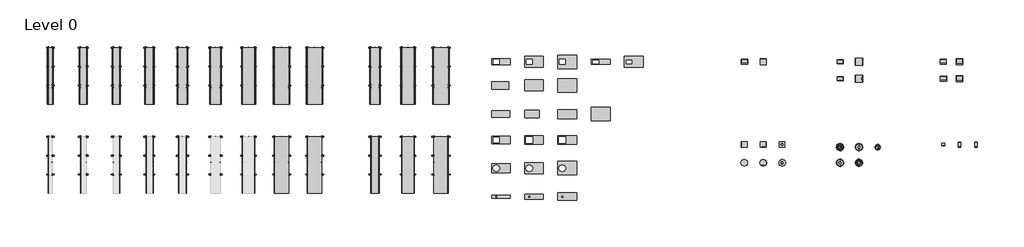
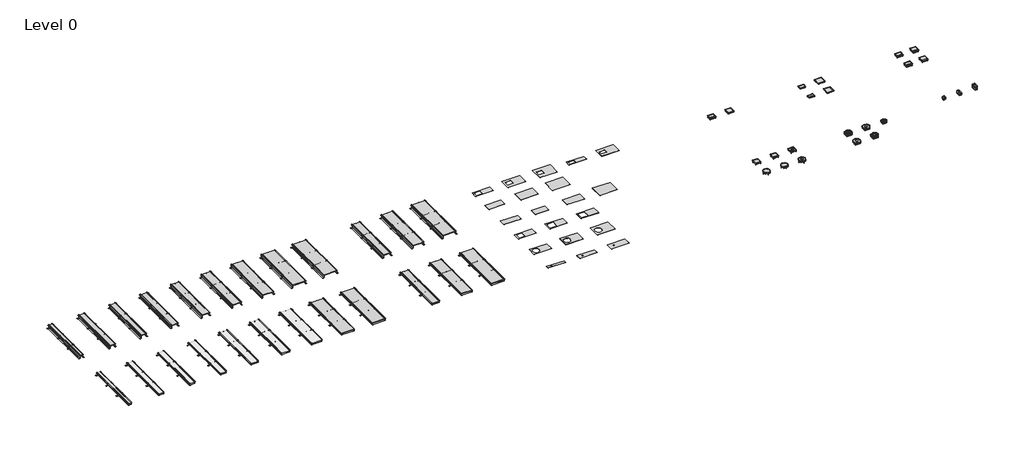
# One storey, part 4 of 4: 69 proxies, 17 cable carrier segments.
"""IFC4 building model written with IfcOpenShell, lengths in millimetres."""

from ifc_helpers import new_model, si_unit, frame, origin, place, context, project, spatial, polyline, outline, extrude, transform, mapped, element, save
from components import electrical_fixtures_b622e032, electrical_fixtures_5628a288, electrical_fixtures_a5200488, electrical_fixtures_af4d04ae, electrical_fixtures_84b00acf, electrical_fixtures_e54105be, electrical_fixtures_3dcf8f7d, electrical_fixtures_91705b88, electrical_fixtures_d483ce37, electrical_fixtures_aef36d11, electrical_fixtures_2640dee4, electrical_fixtures_960f5718, electrical_fixtures_cec88ef4, electrical_fixtures_c34f3bbd, electrical_fixtures_dd089895, electrical_fixtures_6d8ac3d6, electrical_fixtures_47809ec4, electrical_fixtures_4e8a14d8, electrical_fixtures_e7818586, electrical_fixtures_fd652104, electrical_fixtures_dd45cec8, electrical_fixtures_4a2096c9, electrical_fixtures_b3832a11, electrical_fixtures_2455a1ed, electrical_fixtures_ce3c5b8d, electrical_fixtures_6beec135, electrical_fixtures_f82ab545, electrical_fixtures_a64f4c61, electrical_fixtures_7b31ae11, electrical_fixtures_0b4ac500, electrical_fixtures_272c23cf, electrical_fixtures_1b6315bd, electrical_fixtures_594af182, electrical_fixtures_fba496b2, electrical_fixtures_ba507e34, electrical_fixtures_9ab802ce, electrical_fixtures_dc279cdf, electrical_fixtures_df6a39a7, electrical_fixtures_4151214e, electrical_fixtures_acb858e2, electrical_fixtures_989a82f7, electrical_fixtures_b3ad14d0, electrical_fixtures_b430188c, electrical_fixtures_e29cb0aa, electrical_fixtures_c710c140, electrical_fixtures_057aeb0d, electrical_fixtures_bc096a6a, electrical_fixtures_bc675c06, electrical_fixtures_8ed366d0, electrical_fixtures_62458b07, electrical_fixtures_8427cab8, electrical_fixtures_bcf557a4, electrical_fixtures_a8bb30d2, electrical_fixtures_3d1c5f92, electrical_fixtures_84085685, electrical_fixtures_5c7b8e8e, electrical_fixtures_3bb7a620, color_deep_black_c19cb628, color_deep_black_f01a6ed9, color_deep_black_919f03ab, color_deep_black_c4cdae59, color_deep_black_3e0b7094, color_deep_black_fa90bbad, color_iron_grey_09ea9520, stainless_steel_cassette_q12_bl_outer_height_28mm_38aa1d54, stainless_steel_cassette_q12_le_outer_height_28mm_4387def9, stainless_steel_cassette_q12_tm_outer_height_28mm_6e70061e, stainless_steel_cassette_r12_bl_outer_height_28mm_04f2a1df, stainless_steel_cassette_r12_le_outer_height_28mm_2c233eef, stainless_steel_cassette_r12_tm_outer_height_28mm_5556ff63

model = new_model("IFC4")

# Units and contexts
model_context = context("Model", 3, world=origin())
ifc_project = project(units=[si_unit("LENGTHUNIT", "METRE", prefix="MILLI")], contexts=[model_context])

# Site, building, storey
site = spatial("IfcSite", under=ifc_project)
building = spatial("IfcBuilding", under=site)
storey = spatial("IfcBuildingStorey", under=building, Name="Level 0", Elevation=0.0)

# Proxies
placement = place(None, origin())
electrical_fixtures_shape = electrical_fixtures_b622e032(model_context)
element("IfcBuildingElementProxy", 1, Name="Electrical_Installation_Hager_Cover-R12-BKAD : Electrical_Installation_Hager_Cover-R12-BKAD", ObjectType="Electrical_Installation_Hager_Cover-R12-BKAD : Electrical_Installation_Hager_Cover-R12-BKAD", at=placement, inside=storey, context=model_context, shape_type="MappedRepresentation", body=[
    mapped(electrical_fixtures_shape, transform((2595.8008924, 14837.0724961, 0.0), x_axis=(1.0, 0.0, 0.0), y_axis=(0.0, 1.0, 0.0), z_axis=(0.0, 0.0, 1.0))),
])
electrical_fixtures_2_shape = electrical_fixtures_5628a288(model_context)
element("IfcBuildingElementProxy", 2, Name="Electrical_Installation_Hager_Cover-R12-BKAD : Electrical_Installation_Hager_Cover-R12-BKAD", ObjectType="Electrical_Installation_Hager_Cover-R12-BKAD : Electrical_Installation_Hager_Cover-R12-BKAD", at=placement, inside=storey, context=model_context, shape_type="MappedRepresentation", body=[
    mapped(electrical_fixtures_2_shape, transform((1195.8008924, 14837.0724961, 0.0), x_axis=(1.0, 0.0, 0.0), y_axis=(0.0, 1.0, 0.0), z_axis=(0.0, 0.0, 1.0))),
])
electrical_fixtures_3_shape = electrical_fixtures_a5200488(model_context)
electrical_fixtures_4_shape = electrical_fixtures_af4d04ae(model_context)
element("IfcBuildingElementProxy", 3, Name="Electrical_Installation_Hager_BKFD-Trunking-System-With-Flexible-Screed-Casing-And-Sealing-Option : Nominal Size 350  Length 2.4 m", ObjectType="Electrical_Installation_Hager_BKFD-Trunking-System-With-Flexible-Screed-Casing-And-Sealing-Option : Nominal Size 350  Length 2.4 m", at=placement, inside=storey, context=model_context, shape_type="MappedRepresentation", body=[
    mapped(electrical_fixtures_3_shape, transform((-5144.4349543, 19941.7106703, 0.0), x_axis=(0.0, -1.0, 0.0), y_axis=(1.0, 0.0, 0.0), z_axis=(0.0, 0.0, 1.0))),
    mapped(electrical_fixtures_4_shape, transform((-5144.4349543, 19941.7106703, 0.0), x_axis=(0.0, -1.0, 0.0), y_axis=(1.0, 0.0, 0.0), z_axis=(0.0, 0.0, 1.0))),
])
electrical_fixtures_5_shape = electrical_fixtures_84b00acf(model_context)
electrical_fixtures_6_shape = electrical_fixtures_e54105be(model_context)
element("IfcBuildingElementProxy", 4, Name="Electrical_Installation_Hager_BKFD-Trunking-System-With-Flexible-Screed-Casing-And-Sealing-Option : Nominal Size 500  Length 2.4 m", ObjectType="Electrical_Installation_Hager_BKFD-Trunking-System-With-Flexible-Screed-Casing-And-Sealing-Option : Nominal Size 500  Length 2.4 m", at=placement, inside=storey, context=model_context, shape_type="MappedRepresentation", body=[
    mapped(electrical_fixtures_5_shape, transform((-3744.4349543, 19941.7106703, 0.0), x_axis=(0.0, -1.0, 0.0), y_axis=(1.0, 0.0, 0.0), z_axis=(0.0, 0.0, 1.0))),
    mapped(electrical_fixtures_6_shape, transform((-3744.4349543, 19941.7106703, 0.0), x_axis=(0.0, -1.0, 0.0), y_axis=(1.0, 0.0, 0.0), z_axis=(0.0, 0.0, 1.0))),
])
electrical_fixtures_7_shape = electrical_fixtures_3dcf8f7d(model_context)
electrical_fixtures_8_shape = electrical_fixtures_91705b88(model_context)
element("IfcBuildingElementProxy", 5, Name="Electrical_Installation_Hager_BKFD-Trunking-System-With-Flexible-Screed-Casing-And-Sealing-Option : Nominal Size 600  Length 2.4 m", ObjectType="Electrical_Installation_Hager_BKFD-Trunking-System-With-Flexible-Screed-Casing-And-Sealing-Option : Nominal Size 600  Length 2.4 m", at=placement, inside=storey, context=model_context, shape_type="MappedRepresentation", body=[
    mapped(electrical_fixtures_7_shape, transform((-2344.4349543, 19941.7106703, 0.0), x_axis=(0.0, -1.0, 0.0), y_axis=(1.0, 0.0, 0.0), z_axis=(0.0, 0.0, 1.0))),
    mapped(electrical_fixtures_8_shape, transform((-2344.4349543, 19941.7106703, 0.0), x_axis=(0.0, -1.0, 0.0), y_axis=(1.0, 0.0, 0.0), z_axis=(0.0, 0.0, 1.0))),
])
electrical_fixtures_9_shape = electrical_fixtures_d483ce37(model_context)
element("IfcBuildingElementProxy", 6, Name="Electrical_Installation_Hager_Blank-Cover-BKA : Electrical_Installation_Hager_Blank-Cover-BKA", ObjectType="Electrical_Installation_Hager_Blank-Cover-BKA : Electrical_Installation_Hager_Blank-Cover-BKA", at=placement, inside=storey, context=model_context, shape_type="MappedRepresentation", body=[
    mapped(electrical_fixtures_9_shape, transform((4016.298028, 17124.6798726, 0.0), x_axis=(1.0, 0.0, 0.0), y_axis=(0.0, 1.0, 0.0), z_axis=(0.0, 0.0, 1.0))),
])
electrical_fixtures_10_shape = electrical_fixtures_aef36d11(model_context)
element("IfcBuildingElementProxy", 7, Name="Electrical_Installation_Hager_Blank-Cover-BKA : Electrical_Installation_Hager_Blank-Cover-BKA", ObjectType="Electrical_Installation_Hager_Blank-Cover-BKA : Electrical_Installation_Hager_Blank-Cover-BKA", at=placement, inside=storey, context=model_context, shape_type="MappedRepresentation", body=[
    mapped(electrical_fixtures_10_shape, transform((2595.8008924, 17124.6798726, 0.0), x_axis=(1.0, 0.0, 0.0), y_axis=(0.0, 1.0, 0.0), z_axis=(0.0, 0.0, 1.0))),
])
electrical_fixtures_11_shape = electrical_fixtures_2640dee4(model_context)
element("IfcBuildingElementProxy", 8, Name="Electrical_Installation_Hager_Blank-Cover-BKA : Electrical_Installation_Hager_Blank-Cover-BKA", ObjectType="Electrical_Installation_Hager_Blank-Cover-BKA : Electrical_Installation_Hager_Blank-Cover-BKA", at=placement, inside=storey, context=model_context, shape_type="MappedRepresentation", body=[
    mapped(electrical_fixtures_11_shape, transform((1195.8008924, 17124.6798726, 0.0), x_axis=(1.0, 0.0, 0.0), y_axis=(0.0, 1.0, 0.0), z_axis=(0.0, 0.0, 1.0))),
])
electrical_fixtures_12_shape = electrical_fixtures_960f5718(model_context)
element("IfcBuildingElementProxy", 9, Name="Electrical_Installation_Hager_Blank-Cover-BKA : Electrical_Installation_Hager_Blank-Cover-BKA", ObjectType="Electrical_Installation_Hager_Blank-Cover-BKA : Electrical_Installation_Hager_Blank-Cover-BKA", at=placement, inside=storey, context=model_context, shape_type="MappedRepresentation", body=[
    mapped(electrical_fixtures_12_shape, transform((-204.1991076, 17124.6798726, 0.0), x_axis=(1.0, 0.0, 0.0), y_axis=(0.0, 1.0, 0.0), z_axis=(0.0, 0.0, 1.0))),
])
electrical_fixtures_13_shape = electrical_fixtures_cec88ef4(model_context)
element("IfcBuildingElementProxy", 10, Name="Electrical_Installation_Hager_Blank-Cover-BKAD : Electrical_Installation_Hager_Blank-Cover-BKAD", ObjectType="Electrical_Installation_Hager_Blank-Cover-BKAD : Electrical_Installation_Hager_Blank-Cover-BKAD", at=placement, inside=storey, context=model_context, shape_type="MappedRepresentation", body=[
    mapped(electrical_fixtures_13_shape, transform((2595.8008924, 18343.7757742, 0.0), x_axis=(1.0, 0.0, 0.0), y_axis=(0.0, 1.0, 0.0), z_axis=(0.0, 0.0, 1.0))),
])
electrical_fixtures_14_shape = electrical_fixtures_c34f3bbd(model_context)
element("IfcBuildingElementProxy", 11, Name="Electrical_Installation_Hager_Blank-Cover-BKAD : Electrical_Installation_Hager_Blank-Cover-BKAD", ObjectType="Electrical_Installation_Hager_Blank-Cover-BKAD : Electrical_Installation_Hager_Blank-Cover-BKAD", at=placement, inside=storey, context=model_context, shape_type="MappedRepresentation", body=[
    mapped(electrical_fixtures_14_shape, transform((1195.8008924, 18343.7757742, 0.0), x_axis=(1.0, 0.0, 0.0), y_axis=(0.0, 1.0, 0.0), z_axis=(0.0, 0.0, 1.0))),
])
electrical_fixtures_15_shape = electrical_fixtures_dd089895(model_context)
element("IfcBuildingElementProxy", 12, Name="Electrical_Installation_Hager_Blank-Cover-BKAD : Electrical_Installation_Hager_Blank-Cover-BKAD", ObjectType="Electrical_Installation_Hager_Blank-Cover-BKAD : Electrical_Installation_Hager_Blank-Cover-BKAD", at=placement, inside=storey, context=model_context, shape_type="MappedRepresentation", body=[
    mapped(electrical_fixtures_15_shape, transform((-204.1991076, 18343.7757742, 0.0), x_axis=(1.0, 0.0, 0.0), y_axis=(0.0, 1.0, 0.0), z_axis=(0.0, 0.0, 1.0))),
])
electrical_fixtures_16_shape = electrical_fixtures_6d8ac3d6(model_context)
element("IfcBuildingElementProxy", 13, Name="Electrical_Installation_Hager_Cover-E04-BKA : Electrical_Installation_Hager_Cover-E04-BKA", ObjectType="Electrical_Installation_Hager_Cover-E04-BKA : Electrical_Installation_Hager_Cover-E04-BKA", at=placement, inside=storey, context=model_context, shape_type="MappedRepresentation", body=[
    mapped(electrical_fixtures_16_shape, transform((5416.298028, 19343.9175211, 0.0), x_axis=(1.0, 0.0, 0.0), y_axis=(0.0, 1.0, 0.0), z_axis=(0.0, 0.0, 1.0))),
])
electrical_fixtures_17_shape = electrical_fixtures_47809ec4(model_context)
element("IfcBuildingElementProxy", 14, Name="Electrical_Installation_Hager_Cover-E09-BKA : Electrical_Installation_Hager_Cover-E09-BKA", ObjectType="Electrical_Installation_Hager_Cover-E09-BKA : Electrical_Installation_Hager_Cover-E09-BKA", at=placement, inside=storey, context=model_context, shape_type="MappedRepresentation", body=[
    mapped(electrical_fixtures_17_shape, transform((2595.8008924, 19343.9175211, 0.0), x_axis=(1.0, 0.0, 0.0), y_axis=(0.0, 1.0, 0.0), z_axis=(0.0, 0.0, 1.0))),
])
electrical_fixtures_18_shape = electrical_fixtures_4e8a14d8(model_context)
element("IfcBuildingElementProxy", 15, Name="Electrical_Installation_Hager_Cover-E09-BKA : Electrical_Installation_Hager_Cover-E09-BKA", ObjectType="Electrical_Installation_Hager_Cover-E09-BKA : Electrical_Installation_Hager_Cover-E09-BKA", at=placement, inside=storey, context=model_context, shape_type="MappedRepresentation", body=[
    mapped(electrical_fixtures_18_shape, transform((1195.8008924, 19343.9175211, 0.0), x_axis=(1.0, 0.0, 0.0), y_axis=(0.0, 1.0, 0.0), z_axis=(0.0, 0.0, 1.0))),
])
electrical_fixtures_19_shape = electrical_fixtures_e7818586(model_context)
element("IfcBuildingElementProxy", 16, Name="Electrical_Installation_Hager_Cover-GBZ-BKA : Electrical_Installation_Hager_Cover-GBZ-BKA", ObjectType="Electrical_Installation_Hager_Cover-GBZ-BKA : Electrical_Installation_Hager_Cover-GBZ-BKA", at=placement, inside=storey, context=model_context, shape_type="MappedRepresentation", body=[
    mapped(electrical_fixtures_19_shape, transform((1195.8008924, 13630.2917578, 0.0), x_axis=(1.0, 0.0, 0.0), y_axis=(0.0, 1.0, 0.0), z_axis=(0.0, 0.0, 1.0))),
])
electrical_fixtures_20_shape = electrical_fixtures_fd652104(model_context)
element("IfcBuildingElementProxy", 17, Name="Electrical_Installation_Hager_Cover-GBZ-BKA : Electrical_Installation_Hager_Cover-GBZ-BKA", ObjectType="Electrical_Installation_Hager_Cover-GBZ-BKA : Electrical_Installation_Hager_Cover-GBZ-BKA", at=placement, inside=storey, context=model_context, shape_type="MappedRepresentation", body=[
    mapped(electrical_fixtures_20_shape, transform((2595.8008924, 13630.2917578, 0.0), x_axis=(1.0, 0.0, 0.0), y_axis=(0.0, 1.0, 0.0), z_axis=(0.0, 0.0, 1.0))),
])
electrical_fixtures_21_shape = electrical_fixtures_dd45cec8(model_context)
element("IfcBuildingElementProxy", 18, Name="Electrical_Installation_Hager_VE-EE_Pedestal-box-8 : GB pedestal box 8 inst. fields iron gray", ObjectType="Electrical_Installation_Hager_VE-EE_Pedestal-box-8 : GB pedestal box 8 inst. fields iron gray", at=placement, inside=storey, context=model_context, shape_type="MappedRepresentation", body=[
    mapped(electrical_fixtures_21_shape, transform((20328.4884448, 15838.1021439, 0.0), x_axis=(1.0, 0.0, 0.0), y_axis=(0.0, 1.0, 0.0), z_axis=(0.0, 0.0, 1.0))),
])
electrical_fixtures_22_shape = electrical_fixtures_4a2096c9(model_context)
electrical_fixtures_23_shape = electrical_fixtures_b3832a11(model_context)
element("IfcBuildingElementProxy", 19, Name="Electrical_Installation_Hager_BKWD-Trunking-System-With-Trunking-Bottom-And-Sealing-Option : Nominal Size 600  Length 2.4 m", ObjectType="Electrical_Installation_Hager_BKWD-Trunking-System-With-Trunking-Bottom-And-Sealing-Option : Nominal Size 600  Length 2.4 m", at=placement, inside=storey, context=model_context, shape_type="MappedRepresentation", body=[
    mapped(electrical_fixtures_22_shape, transform((-2344.4349543, 16166.2543514, 0.0), x_axis=(0.0, -1.0, 0.0), y_axis=(1.0, 0.0, 0.0), z_axis=(0.0, 0.0, 1.0))),
    mapped(electrical_fixtures_23_shape, transform((-2344.4349543, 16166.2543514, 0.0), x_axis=(0.0, -1.0, 0.0), y_axis=(1.0, 0.0, 0.0), z_axis=(0.0, 0.0, 1.0))),
])
electrical_fixtures_24_shape = electrical_fixtures_2455a1ed(model_context)
electrical_fixtures_25_shape = electrical_fixtures_ce3c5b8d(model_context)
element("IfcBuildingElementProxy", 20, Name="Electrical_Installation_Hager_BKWD-Trunking-System-With-Trunking-Bottom-And-Sealing-Option : Nominal Size 500  Length 2.4 m", ObjectType="Electrical_Installation_Hager_BKWD-Trunking-System-With-Trunking-Bottom-And-Sealing-Option : Nominal Size 500  Length 2.4 m", at=placement, inside=storey, context=model_context, shape_type="MappedRepresentation", body=[
    mapped(electrical_fixtures_24_shape, transform((-3744.4349543, 16166.2543514, 0.0), x_axis=(0.0, -1.0, 0.0), y_axis=(1.0, 0.0, 0.0), z_axis=(0.0, 0.0, 1.0))),
    mapped(electrical_fixtures_25_shape, transform((-3744.4349543, 16166.2543514, 0.0), x_axis=(0.0, -1.0, 0.0), y_axis=(1.0, 0.0, 0.0), z_axis=(0.0, 0.0, 1.0))),
])
electrical_fixtures_26_shape = electrical_fixtures_6beec135(model_context)
electrical_fixtures_27_shape = electrical_fixtures_f82ab545(model_context)
element("IfcBuildingElementProxy", 21, Name="Electrical_Installation_Hager_BKWD-Trunking-System-With-Trunking-Bottom-And-Sealing-Option : Nominal Size 350  Length 2.4 m", ObjectType="Electrical_Installation_Hager_BKWD-Trunking-System-With-Trunking-Bottom-And-Sealing-Option : Nominal Size 350  Length 2.4 m", at=placement, inside=storey, context=model_context, shape_type="MappedRepresentation", body=[
    mapped(electrical_fixtures_26_shape, transform((-5144.4349543, 16166.2543514, 0.0), x_axis=(0.0, -1.0, 0.0), y_axis=(1.0, 0.0, 0.0), z_axis=(0.0, 0.0, 1.0))),
    mapped(electrical_fixtures_27_shape, transform((-5144.4349543, 16166.2543514, 0.0), x_axis=(0.0, -1.0, 0.0), y_axis=(1.0, 0.0, 0.0), z_axis=(0.0, 0.0, 1.0))),
])
element("IfcBuildingElementProxy", 22, Name="Electrical_Installation_Hager_BKW-Trunking-System-With-Trunking-Bottom-For-Dry-Cleaned-Floors : Nominal Size 350  Length 2.4 m", ObjectType="Electrical_Installation_Hager_BKW-Trunking-System-With-Trunking-Bottom-For-Dry-Cleaned-Floors : Nominal Size 350  Length 2.4 m", at=placement, inside=storey, context=model_context, shape_type="MappedRepresentation", body=[
    mapped(electrical_fixtures_26_shape, transform((-13300.1355574, 16166.2543514, 0.0), x_axis=(0.0, -1.0, 0.0), y_axis=(1.0, 0.0, 0.0), z_axis=(0.0, 0.0, 1.0))),
    mapped(electrical_fixtures_27_shape, transform((-13300.1355574, 16166.2543514, 0.0), x_axis=(0.0, -1.0, 0.0), y_axis=(1.0, 0.0, 0.0), z_axis=(0.0, 0.0, 1.0))),
])
electrical_fixtures_28_shape = electrical_fixtures_a64f4c61(model_context)
electrical_fixtures_29_shape = electrical_fixtures_7b31ae11(model_context)
element("IfcBuildingElementProxy", 23, Name="Electrical_Installation_Hager_BKW-Trunking-System-With-Trunking-Bottom-For-Dry-Cleaned-Floors : Nominal Size 400  Length 2.4 m", ObjectType="Electrical_Installation_Hager_BKW-Trunking-System-With-Trunking-Bottom-For-Dry-Cleaned-Floors : Nominal Size 400  Length 2.4 m", at=placement, inside=storey, context=model_context, shape_type="MappedRepresentation", body=[
    mapped(electrical_fixtures_28_shape, transform((-11900.1355574, 16166.2543514, 0.0), x_axis=(0.0, -1.0, 0.0), y_axis=(1.0, 0.0, 0.0), z_axis=(0.0, 0.0, 1.0))),
    mapped(electrical_fixtures_29_shape, transform((-11900.1355574, 16166.2543514, 0.0), x_axis=(0.0, -1.0, 0.0), y_axis=(1.0, 0.0, 0.0), z_axis=(0.0, 0.0, 1.0))),
])
element("IfcBuildingElementProxy", 24, Name="Electrical_Installation_Hager_BKW-Trunking-System-With-Trunking-Bottom-For-Dry-Cleaned-Floors : Nominal Size 500  Length 2.4 m", ObjectType="Electrical_Installation_Hager_BKW-Trunking-System-With-Trunking-Bottom-For-Dry-Cleaned-Floors : Nominal Size 500  Length 2.4 m", at=placement, inside=storey, context=model_context, shape_type="MappedRepresentation", body=[
    mapped(electrical_fixtures_24_shape, transform((-10500.1355574, 16166.2543514, 0.0), x_axis=(0.0, -1.0, 0.0), y_axis=(1.0, 0.0, 0.0), z_axis=(0.0, 0.0, 1.0))),
    mapped(electrical_fixtures_25_shape, transform((-10500.1355574, 16166.2543514, 0.0), x_axis=(0.0, -1.0, 0.0), y_axis=(1.0, 0.0, 0.0), z_axis=(0.0, 0.0, 1.0))),
])
element("IfcBuildingElementProxy", 25, Name="Electrical_Installation_Hager_BKW-Trunking-System-With-Trunking-Bottom-For-Dry-Cleaned-Floors : Nominal Size 600  Length 2.4 m", ObjectType="Electrical_Installation_Hager_BKW-Trunking-System-With-Trunking-Bottom-For-Dry-Cleaned-Floors : Nominal Size 600  Length 2.4 m", at=placement, inside=storey, context=model_context, shape_type="MappedRepresentation", body=[
    mapped(electrical_fixtures_22_shape, transform((-9100.1355574, 16166.2543514, 0.0), x_axis=(0.0, -1.0, 0.0), y_axis=(1.0, 0.0, 0.0), z_axis=(0.0, 0.0, 1.0))),
    mapped(electrical_fixtures_23_shape, transform((-9100.1355574, 16166.2543514, 0.0), x_axis=(0.0, -1.0, 0.0), y_axis=(1.0, 0.0, 0.0), z_axis=(0.0, 0.0, 1.0))),
])
element("IfcBuildingElementProxy", 26, Name="Electrical_Installation_Hager_BKW-Trunking-System-With-Trunking-Bottom-For-Dry-Cleaned-Floors : Nominal Size 600  Length 2.4 m", ObjectType="Electrical_Installation_Hager_BKW-Trunking-System-With-Trunking-Bottom-For-Dry-Cleaned-Floors : Nominal Size 600  Length 2.4 m", at=placement, inside=storey, context=model_context, shape_type="MappedRepresentation", body=[
    mapped(electrical_fixtures_22_shape, transform((-7700.1355574, 16166.2543514, 0.0), x_axis=(0.0, -1.0, 0.0), y_axis=(1.0, 0.0, 0.0), z_axis=(0.0, 0.0, 1.0))),
    mapped(electrical_fixtures_23_shape, transform((-7700.1355574, 16166.2543514, 0.0), x_axis=(0.0, -1.0, 0.0), y_axis=(1.0, 0.0, 0.0), z_axis=(0.0, 0.0, 1.0))),
])
electrical_fixtures_30_shape = electrical_fixtures_0b4ac500(model_context)
electrical_fixtures_31_shape = electrical_fixtures_272c23cf(model_context)
element("IfcBuildingElementProxy", 27, Name="Electrical_Installation_Hager_BKW-Trunking-System-With-Trunking-Bottom-For-Dry-Cleaned-Floors : Nominal Size 300  Length 2.4 m", ObjectType="Electrical_Installation_Hager_BKW-Trunking-System-With-Trunking-Bottom-For-Dry-Cleaned-Floors : Nominal Size 300  Length 2.4 m", at=placement, inside=storey, context=model_context, shape_type="MappedRepresentation", body=[
    mapped(electrical_fixtures_30_shape, transform((-14700.1355574, 16166.2543514, 0.0), x_axis=(0.0, -1.0, 0.0), y_axis=(1.0, 0.0, 0.0), z_axis=(0.0, 0.0, 1.0))),
    mapped(electrical_fixtures_31_shape, transform((-14700.1355574, 16166.2543514, 0.0), x_axis=(0.0, -1.0, 0.0), y_axis=(1.0, 0.0, 0.0), z_axis=(0.0, 0.0, 1.0))),
])
electrical_fixtures_32_shape = electrical_fixtures_1b6315bd(model_context)
electrical_fixtures_33_shape = electrical_fixtures_594af182(model_context)
element("IfcBuildingElementProxy", 28, Name="Electrical_Installation_Hager_BKW-Trunking-System-With-Trunking-Bottom-For-Dry-Cleaned-Floors : Nominal Size 150  Length 2.4 m", ObjectType="Electrical_Installation_Hager_BKW-Trunking-System-With-Trunking-Bottom-For-Dry-Cleaned-Floors : Nominal Size 150  Length 2.4 m", at=placement, inside=storey, context=model_context, shape_type="MappedRepresentation", body=[
    mapped(electrical_fixtures_32_shape, transform((-18900.1355574, 16166.2543514, 0.0), x_axis=(0.0, -1.0, 0.0), y_axis=(1.0, 0.0, 0.0), z_axis=(0.0, 0.0, 1.0))),
    mapped(electrical_fixtures_33_shape, transform((-18900.1355574, 16166.2543514, 0.0), x_axis=(0.0, -1.0, 0.0), y_axis=(1.0, 0.0, 0.0), z_axis=(0.0, 0.0, 1.0))),
])
electrical_fixtures_34_shape = electrical_fixtures_fba496b2(model_context)
electrical_fixtures_35_shape = electrical_fixtures_ba507e34(model_context)
element("IfcBuildingElementProxy", 29, Name="Electrical_Installation_Hager_BKW-Trunking-System-With-Trunking-Bottom-For-Dry-Cleaned-Floors : Nominal Size 250  Length 2.4 m", ObjectType="Electrical_Installation_Hager_BKW-Trunking-System-With-Trunking-Bottom-For-Dry-Cleaned-Floors : Nominal Size 250  Length 2.4 m", at=placement, inside=storey, context=model_context, shape_type="MappedRepresentation", body=[
    mapped(electrical_fixtures_34_shape, transform((-17500.1355574, 16166.2543514, 0.0), x_axis=(0.0, -1.0, 0.0), y_axis=(1.0, 0.0, 0.0), z_axis=(0.0, 0.0, 1.0))),
    mapped(electrical_fixtures_35_shape, transform((-17500.1355574, 16166.2543514, 0.0), x_axis=(0.0, -1.0, 0.0), y_axis=(1.0, 0.0, 0.0), z_axis=(0.0, 0.0, 1.0))),
])
element("IfcBuildingElementProxy", 30, Name="Electrical_Installation_Hager_BKW-Trunking-System-With-Trunking-Bottom-For-Dry-Cleaned-Floors : Nominal Size 250  Length 2.4 m", ObjectType="Electrical_Installation_Hager_BKW-Trunking-System-With-Trunking-Bottom-For-Dry-Cleaned-Floors : Nominal Size 250  Length 2.4 m", at=placement, inside=storey, context=model_context, shape_type="MappedRepresentation", body=[
    mapped(electrical_fixtures_34_shape, transform((-16100.1355574, 16166.2543514, 0.0), x_axis=(0.0, -1.0, 0.0), y_axis=(1.0, 0.0, 0.0), z_axis=(0.0, 0.0, 1.0))),
    mapped(electrical_fixtures_35_shape, transform((-16100.1355574, 16166.2543514, 0.0), x_axis=(0.0, -1.0, 0.0), y_axis=(1.0, 0.0, 0.0), z_axis=(0.0, 0.0, 1.0))),
])
electrical_fixtures_36_shape = electrical_fixtures_9ab802ce(model_context)
electrical_fixtures_37_shape = electrical_fixtures_dc279cdf(model_context)
element("IfcBuildingElementProxy", 31, Name="Electrical_Installation_Hager_BKF-Trunking-System-With-Flexible-Screed-Casing-For-Dry-Cleaned-Floors : Nominal Size 150  Length 2.4 m", ObjectType="Electrical_Installation_Hager_BKF-Trunking-System-With-Flexible-Screed-Casing-For-Dry-Cleaned-Floors : Nominal Size 150  Length 2.4 m", at=placement, inside=storey, context=model_context, shape_type="MappedRepresentation", body=[
    mapped(electrical_fixtures_36_shape, transform((-18900.1355574, 19941.7106703, 0.0), x_axis=(0.0, -1.0, 0.0), y_axis=(1.0, 0.0, 0.0), z_axis=(0.0, 0.0, 1.0))),
    mapped(electrical_fixtures_37_shape, transform((-18900.1355574, 19941.7106703, 0.0), x_axis=(0.0, -1.0, 0.0), y_axis=(1.0, 0.0, 0.0), z_axis=(0.0, 0.0, 1.0))),
])
electrical_fixtures_38_shape = electrical_fixtures_df6a39a7(model_context)
electrical_fixtures_39_shape = electrical_fixtures_4151214e(model_context)
element("IfcBuildingElementProxy", 32, Name="Electrical_Installation_Hager_BKF-Trunking-System-With-Flexible-Screed-Casing-For-Dry-Cleaned-Floors : Nominal Size 250  Length 2.4 m", ObjectType="Electrical_Installation_Hager_BKF-Trunking-System-With-Flexible-Screed-Casing-For-Dry-Cleaned-Floors : Nominal Size 250  Length 2.4 m", at=placement, inside=storey, context=model_context, shape_type="MappedRepresentation", body=[
    mapped(electrical_fixtures_38_shape, transform((-17500.1355574, 19941.7106703, 0.0), x_axis=(0.0, -1.0, 0.0), y_axis=(1.0, 0.0, 0.0), z_axis=(0.0, 0.0, 1.0))),
    mapped(electrical_fixtures_39_shape, transform((-17500.1355574, 19941.7106703, 0.0), x_axis=(0.0, -1.0, 0.0), y_axis=(1.0, 0.0, 0.0), z_axis=(0.0, 0.0, 1.0))),
])
element("IfcBuildingElementProxy", 33, Name="Electrical_Installation_Hager_BKF-Trunking-System-With-Flexible-Screed-Casing-For-Dry-Cleaned-Floors : Nominal Size 250  Length 2.4 m", ObjectType="Electrical_Installation_Hager_BKF-Trunking-System-With-Flexible-Screed-Casing-For-Dry-Cleaned-Floors : Nominal Size 250  Length 2.4 m", at=placement, inside=storey, context=model_context, shape_type="MappedRepresentation", body=[
    mapped(electrical_fixtures_38_shape, transform((-16100.1355574, 19941.7106703, 0.0), x_axis=(0.0, -1.0, 0.0), y_axis=(1.0, 0.0, 0.0), z_axis=(0.0, 0.0, 1.0))),
    mapped(electrical_fixtures_39_shape, transform((-16100.1355574, 19941.7106703, 0.0), x_axis=(0.0, -1.0, 0.0), y_axis=(1.0, 0.0, 0.0), z_axis=(0.0, 0.0, 1.0))),
])
electrical_fixtures_40_shape = electrical_fixtures_acb858e2(model_context)
electrical_fixtures_41_shape = electrical_fixtures_989a82f7(model_context)
element("IfcBuildingElementProxy", 34, Name="Electrical_Installation_Hager_BKF-Trunking-System-With-Flexible-Screed-Casing-For-Dry-Cleaned-Floors : Nominal Size 300  Length 2.4 m", ObjectType="Electrical_Installation_Hager_BKF-Trunking-System-With-Flexible-Screed-Casing-For-Dry-Cleaned-Floors : Nominal Size 300  Length 2.4 m", at=placement, inside=storey, context=model_context, shape_type="MappedRepresentation", body=[
    mapped(electrical_fixtures_40_shape, transform((-14700.1355574, 19941.7106703, 0.0), x_axis=(0.0, -1.0, 0.0), y_axis=(1.0, 0.0, 0.0), z_axis=(0.0, 0.0, 1.0))),
    mapped(electrical_fixtures_41_shape, transform((-14700.1355574, 19941.7106703, 0.0), x_axis=(0.0, -1.0, 0.0), y_axis=(1.0, 0.0, 0.0), z_axis=(0.0, 0.0, 1.0))),
])
element("IfcBuildingElementProxy", 35, Name="Electrical_Installation_Hager_BKF-Trunking-System-With-Flexible-Screed-Casing-For-Dry-Cleaned-Floors : Nominal Size 350  Length 2.4 m", ObjectType="Electrical_Installation_Hager_BKF-Trunking-System-With-Flexible-Screed-Casing-For-Dry-Cleaned-Floors : Nominal Size 350  Length 2.4 m", at=placement, inside=storey, context=model_context, shape_type="MappedRepresentation", body=[
    mapped(electrical_fixtures_3_shape, transform((-13300.1355574, 19941.7106703, 0.0), x_axis=(0.0, -1.0, 0.0), y_axis=(1.0, 0.0, 0.0), z_axis=(0.0, 0.0, 1.0))),
    mapped(electrical_fixtures_4_shape, transform((-13300.1355574, 19941.7106703, 0.0), x_axis=(0.0, -1.0, 0.0), y_axis=(1.0, 0.0, 0.0), z_axis=(0.0, 0.0, 1.0))),
])
electrical_fixtures_42_shape = electrical_fixtures_b3ad14d0(model_context)
electrical_fixtures_43_shape = electrical_fixtures_b430188c(model_context)
element("IfcBuildingElementProxy", 36, Name="Electrical_Installation_Hager_BKF-Trunking-System-With-Flexible-Screed-Casing-For-Dry-Cleaned-Floors : Nominal Size 400  Length 2.4 m", ObjectType="Electrical_Installation_Hager_BKF-Trunking-System-With-Flexible-Screed-Casing-For-Dry-Cleaned-Floors : Nominal Size 400  Length 2.4 m", at=placement, inside=storey, context=model_context, shape_type="MappedRepresentation", body=[
    mapped(electrical_fixtures_42_shape, transform((-11900.1355574, 19941.7106703, 0.0), x_axis=(0.0, -1.0, 0.0), y_axis=(1.0, 0.0, 0.0), z_axis=(0.0, 0.0, 1.0))),
    mapped(electrical_fixtures_43_shape, transform((-11900.1355574, 19941.7106703, 0.0), x_axis=(0.0, -1.0, 0.0), y_axis=(1.0, 0.0, 0.0), z_axis=(0.0, 0.0, 1.0))),
])
element("IfcBuildingElementProxy", 37, Name="Electrical_Installation_Hager_BKF-Trunking-System-With-Flexible-Screed-Casing-For-Dry-Cleaned-Floors : Nominal Size 500  Length 2.4 m", ObjectType="Electrical_Installation_Hager_BKF-Trunking-System-With-Flexible-Screed-Casing-For-Dry-Cleaned-Floors : Nominal Size 500  Length 2.4 m", at=placement, inside=storey, context=model_context, shape_type="MappedRepresentation", body=[
    mapped(electrical_fixtures_5_shape, transform((-10500.1355574, 19941.7106703, 0.0), x_axis=(0.0, -1.0, 0.0), y_axis=(1.0, 0.0, 0.0), z_axis=(0.0, 0.0, 1.0))),
    mapped(electrical_fixtures_6_shape, transform((-10500.1355574, 19941.7106703, 0.0), x_axis=(0.0, -1.0, 0.0), y_axis=(1.0, 0.0, 0.0), z_axis=(0.0, 0.0, 1.0))),
])
element("IfcBuildingElementProxy", 38, Name="Electrical_Installation_Hager_BKF-Trunking-System-With-Flexible-Screed-Casing-For-Dry-Cleaned-Floors : Nominal Size 600  Length 2.4 m", ObjectType="Electrical_Installation_Hager_BKF-Trunking-System-With-Flexible-Screed-Casing-For-Dry-Cleaned-Floors : Nominal Size 600  Length 2.4 m", at=placement, inside=storey, context=model_context, shape_type="MappedRepresentation", body=[
    mapped(electrical_fixtures_7_shape, transform((-9100.1355574, 19941.7106703, 0.0), x_axis=(0.0, -1.0, 0.0), y_axis=(1.0, 0.0, 0.0), z_axis=(0.0, 0.0, 1.0))),
    mapped(electrical_fixtures_8_shape, transform((-9100.1355574, 19941.7106703, 0.0), x_axis=(0.0, -1.0, 0.0), y_axis=(1.0, 0.0, 0.0), z_axis=(0.0, 0.0, 1.0))),
])
element("IfcBuildingElementProxy", 39, Name="Electrical_Installation_Hager_BKF-Trunking-System-With-Flexible-Screed-Casing-For-Dry-Cleaned-Floors : Nominal Size 600  Length 2.4 m", ObjectType="Electrical_Installation_Hager_BKF-Trunking-System-With-Flexible-Screed-Casing-For-Dry-Cleaned-Floors : Nominal Size 600  Length 2.4 m", at=placement, inside=storey, context=model_context, shape_type="MappedRepresentation", body=[
    mapped(electrical_fixtures_7_shape, transform((-7700.1355574, 19941.7106703, 0.0), x_axis=(0.0, -1.0, 0.0), y_axis=(1.0, 0.0, 0.0), z_axis=(0.0, 0.0, 1.0))),
    mapped(electrical_fixtures_8_shape, transform((-7700.1355574, 19941.7106703, 0.0), x_axis=(0.0, -1.0, 0.0), y_axis=(1.0, 0.0, 0.0), z_axis=(0.0, 0.0, 1.0))),
])
electrical_fixtures_44_shape = electrical_fixtures_e29cb0aa(model_context)
element("IfcBuildingElementProxy", 40, Name="Electrical_Installation_Hager_VE-EE_VANR_3mm_Service-unit-for-wet-cleaned-floors-for-the-installation-tube-cable-outlet-made-of-aluminium : Service unit R12 w set HB wet Al-Tub 3mm", ObjectType="Electrical_Installation_Hager_VE-EE_VANR_3mm_Service-unit-for-wet-cleaned-floors-for-the-installation-tube-cable-outlet-made-of-aluminium : Service unit R12 w set HB wet Al-Tub 3mm", at=placement, inside=storey, context=model_context, shape_type="MappedRepresentation", body=[
    mapped(electrical_fixtures_44_shape, transform((14562.40497, 15064.9554825, 0.0), x_axis=(1.0, 0.0, 0.0), y_axis=(0.0, 1.0, 0.0), z_axis=(0.0, 0.0, 1.0))),
])
element("IfcBuildingElementProxy", 41, Name="Electrical_Installation_Hager_VE-EE_VANR_3mm_Service-unit-for-wet-cleaned-floors-with-tube-cable-outlete-made-of-polyamide : Service unit R12 w set HB wet PA-T Al 3mm", ObjectType="Electrical_Installation_Hager_VE-EE_VANR_3mm_Service-unit-for-wet-cleaned-floors-with-tube-cable-outlete-made-of-polyamide : Service unit R12 w set HB wet PA-T Al 3mm", at=placement, inside=storey, context=model_context, shape_type="MappedRepresentation", body=[
    mapped(electrical_fixtures_44_shape, transform((15362.40497, 15727.5937258, 0.0), x_axis=(1.0, 0.0, 0.0), y_axis=(0.0, 1.0, 0.0), z_axis=(0.0, 0.0, 1.0))),
])
electrical_fixtures_45_shape = electrical_fixtures_c710c140(model_context)
element("IfcBuildingElementProxy", 42, Name="Electrical_Installation_Hager_VE-EE_VANR-Service-unit-for-wet-cleaned-floors-for-the-installation-of-tube-cable-outlets-made-of-aluminium : Service unit R12 w set HB wet Al-Tub R deep black", ObjectType="Electrical_Installation_Hager_VE-EE_VANR-Service-unit-for-wet-cleaned-floors-for-the-installation-of-tube-cable-outlets-made-of-aluminium : Service unit R12 w set HB wet Al-Tub R deep black", at=placement, inside=storey, context=model_context, shape_type="MappedRepresentation", body=[
    mapped(electrical_fixtures_45_shape, transform((16162.40497, 15727.5937258, 0.0), x_axis=(1.0, 0.0, 0.0), y_axis=(0.0, 1.0, 0.0), z_axis=(0.0, 0.0, 1.0))),
])
electrical_fixtures_46_shape = electrical_fixtures_057aeb0d(model_context)
element("IfcBuildingElementProxy", 43, Name="Electrical_Installation_Hager_VE-EE_VANR-Service-unit-for-wet-cleaned-floors-for-the-installation-tube-cable-outlet-made-of-aluminium : Service unit R12 w set HB wet Al-Tub R", ObjectType="Electrical_Installation_Hager_VE-EE_VANR-Service-unit-for-wet-cleaned-floors-for-the-installation-tube-cable-outlet-made-of-aluminium : Service unit R12 w set HB wet Al-Tub R", at=placement, inside=storey, context=model_context, shape_type="MappedRepresentation", body=[
    mapped(electrical_fixtures_46_shape, transform((14562.40497, 15727.5937258, 0.0), x_axis=(1.0, 0.0, 0.0), y_axis=(0.0, 1.0, 0.0), z_axis=(0.0, 0.0, 1.0))),
])
electrical_fixtures_47_shape = electrical_fixtures_bc096a6a(model_context)
element("IfcBuildingElementProxy", 44, Name="Electrical_Installation_Hager_VE-EE_VANR-Service-unit-for-wet-cleaned-floors-with-tube-cable-outlete-made-of-polyamide : Service unit R12 w set HB wet PA-Tub Al R", ObjectType="Electrical_Installation_Hager_VE-EE_VANR-Service-unit-for-wet-cleaned-floors-with-tube-cable-outlete-made-of-polyamide : Service unit R12 w set HB wet PA-Tub Al R", at=placement, inside=storey, context=model_context, shape_type="MappedRepresentation", body=[
    mapped(electrical_fixtures_47_shape, transform((15362.40497, 15064.9554825, 0.0), x_axis=(1.0, 0.0, 0.0), y_axis=(0.0, 1.0, 0.0), z_axis=(0.0, 0.0, 1.0))),
])
electrical_fixtures_48_shape = electrical_fixtures_bc675c06(model_context)
element("IfcBuildingElementProxy", 45, Name="Electrical_Installation_Hager_VE-EE_Pedestal-box-2 : GB pedestal box 2 inst. fields iron gray", ObjectType="Electrical_Installation_Hager_VE-EE_Pedestal-box-2 : GB pedestal box 2 inst. fields iron gray", at=placement, inside=storey, context=model_context, shape_type="MappedRepresentation", body=[
    mapped(electrical_fixtures_48_shape, transform((18934.6939484, 15838.1021439, 0.0), x_axis=(1.0, 0.0, 0.0), y_axis=(0.0, 1.0, 0.0), z_axis=(0.0, 0.0, 1.0))),
])
electrical_fixtures_49_shape = electrical_fixtures_8ed366d0(model_context)
element("IfcBuildingElementProxy", 46, Name="Electrical_Installation_Hager_VE-EE_Pedestal-box-4 : GB pedestal box 4 inst. fields iron gray", ObjectType="Electrical_Installation_Hager_VE-EE_Pedestal-box-4 : GB pedestal box 4 inst. fields iron gray", at=placement, inside=storey, context=model_context, shape_type="MappedRepresentation", body=[
    mapped(electrical_fixtures_49_shape, transform((19626.4204908, 15838.1021439, 0.0), x_axis=(1.0, 0.0, 0.0), y_axis=(0.0, 1.0, 0.0), z_axis=(0.0, 0.0, 1.0))),
])
electrical_fixtures_50_shape = electrical_fixtures_62458b07(model_context)
element("IfcBuildingElementProxy", 47, Name="Electrical_Installation_Hager_VE-EE_Service-unit-VE09-made-of-stainless-steel : Electrical_Installation_Hager_VE-EE_Service-unit-VE09-made-of-stainless-steel", ObjectType="Electrical_Installation_Hager_VE-EE_Service-unit-VE09-made-of-stainless-steel : Electrical_Installation_Hager_VE-EE_Service-unit-VE09-made-of-stainless-steel", at=placement, inside=storey, context=model_context, shape_type="MappedRepresentation", body=[
    mapped(electrical_fixtures_50_shape, transform((18934.6939484, 18625.3593597, 0.0), x_axis=(1.0, 0.0, 0.0), y_axis=(0.0, 1.0, 0.0), z_axis=(0.0, 0.0, 1.0))),
])
electrical_fixtures_51_shape = electrical_fixtures_8427cab8(model_context)
element("IfcBuildingElementProxy", 48, Name="Electrical_Installation_Hager_VE-EE_Service-unit-VQ12-made-of-stainless-steel : Electrical_Installation_Hager_VE-EE_Service-unit-VQ12-made-of-stainless-steel", ObjectType="Electrical_Installation_Hager_VE-EE_Service-unit-VQ12-made-of-stainless-steel : Electrical_Installation_Hager_VE-EE_Service-unit-VQ12-made-of-stainless-steel", at=placement, inside=storey, context=model_context, shape_type="MappedRepresentation", body=[
    mapped(electrical_fixtures_51_shape, transform((19626.4204908, 18625.3593597, 0.0), x_axis=(1.0, 0.0, 0.0), y_axis=(0.0, 1.0, 0.0), z_axis=(0.0, 0.0, 1.0))),
])
electrical_fixtures_52_shape = electrical_fixtures_bcf557a4(model_context)
element("IfcBuildingElementProxy", 49, Name="Electrical_Installation_Hager_Cover-E04-BKA : Electrical_Installation_Hager_Cover-E04-BKA", ObjectType="Electrical_Installation_Hager_Cover-E04-BKA : Electrical_Installation_Hager_Cover-E04-BKA", at=placement, inside=storey, context=model_context, shape_type="MappedRepresentation", body=[
    mapped(electrical_fixtures_52_shape, transform((4016.298028, 19343.9175211, 0.0), x_axis=(1.0, 0.0, 0.0), y_axis=(0.0, 1.0, 0.0), z_axis=(0.0, 0.0, 1.0))),
])
electrical_fixtures_53_shape = electrical_fixtures_a8bb30d2(model_context)
element("IfcBuildingElementProxy", 50, Name="Electrical_Installation_Hager_Cover-E09-BKA : Electrical_Installation_Hager_Cover-E09-BKA", ObjectType="Electrical_Installation_Hager_Cover-E09-BKA : Electrical_Installation_Hager_Cover-E09-BKA", at=placement, inside=storey, context=model_context, shape_type="MappedRepresentation", body=[
    mapped(electrical_fixtures_53_shape, transform((-204.1991076, 19343.9175211, 0.0), x_axis=(1.0, 0.0, 0.0), y_axis=(0.0, 1.0, 0.0), z_axis=(0.0, 0.0, 1.0))),
])
electrical_fixtures_54_shape = electrical_fixtures_3d1c5f92(model_context)
element("IfcBuildingElementProxy", 51, Name="Electrical_Installation_Hager_Cover-GBZ-BKA : Electrical_Installation_Hager_Cover-GBZ-BKA", ObjectType="Electrical_Installation_Hager_Cover-GBZ-BKA : Electrical_Installation_Hager_Cover-GBZ-BKA", at=placement, inside=storey, context=model_context, shape_type="MappedRepresentation", body=[
    mapped(electrical_fixtures_54_shape, transform((-204.1991076, 13630.2917578, 0.0), x_axis=(1.0, 0.0, 0.0), y_axis=(0.0, 1.0, 0.0), z_axis=(0.0, 0.0, 1.0))),
])
electrical_fixtures_55_shape = electrical_fixtures_84085685(model_context)
element("IfcBuildingElementProxy", 52, Name="Electrical_Installation_Hager_Cover-Q08-BKA : Electrical_Installation_Hager_Cover-Q08-BKA", ObjectType="Electrical_Installation_Hager_Cover-Q08-BKA : Electrical_Installation_Hager_Cover-Q08-BKA", at=placement, inside=storey, context=model_context, shape_type="MappedRepresentation", body=[
    mapped(electrical_fixtures_55_shape, transform((1195.8008924, 16030.2917578, 0.0), x_axis=(1.0, 0.0, 0.0), y_axis=(0.0, 1.0, 0.0), z_axis=(0.0, 0.0, 1.0))),
])
element("IfcBuildingElementProxy", 53, Name="Electrical_Installation_Hager_Cover-Q08-BKA : Electrical_Installation_Hager_Cover-Q08-BKA", ObjectType="Electrical_Installation_Hager_Cover-Q08-BKA : Electrical_Installation_Hager_Cover-Q08-BKA", at=placement, inside=storey, context=model_context, shape_type="MappedRepresentation", body=[
    mapped(electrical_fixtures_55_shape, transform((2595.8008924, 16030.2917578, 0.0), x_axis=(1.0, 0.0, 0.0), y_axis=(0.0, 1.0, 0.0), z_axis=(0.0, 0.0, 1.0))),
])
electrical_fixtures_56_shape = electrical_fixtures_5c7b8e8e(model_context)
element("IfcBuildingElementProxy", 54, Name="Electrical_Installation_Hager_Cover-Q12-BKA : Electrical_Installation_Hager_Cover-Q12-BKA", ObjectType="Electrical_Installation_Hager_Cover-Q12-BKA : Electrical_Installation_Hager_Cover-Q12-BKA", at=placement, inside=storey, context=model_context, shape_type="MappedRepresentation", body=[
    mapped(electrical_fixtures_56_shape, transform((-204.1991076, 16030.2917578, 0.0), x_axis=(1.0, 0.0, 0.0), y_axis=(0.0, 1.0, 0.0), z_axis=(0.0, 0.0, 1.0))),
])
electrical_fixtures_57_shape = electrical_fixtures_3bb7a620(model_context)
element("IfcBuildingElementProxy", 55, Name="Electrical_Installation_Hager_Cover-R12-BKA : Electrical_Installation_Hager_Cover-R12-BKA", ObjectType="Electrical_Installation_Hager_Cover-R12-BKA : Electrical_Installation_Hager_Cover-R12-BKA", at=placement, inside=storey, context=model_context, shape_type="MappedRepresentation", body=[
    mapped(electrical_fixtures_57_shape, transform((-204.1991076, 14837.0724961, 0.0), x_axis=(1.0, 0.0, 0.0), y_axis=(0.0, 1.0, 0.0), z_axis=(0.0, 0.0, 1.0))),
])
color_deep_black_shape = color_deep_black_c19cb628(model_context)
element("IfcBuildingElementProxy", 56, Name="Electrical_Installation_Hager_VE-EE_Cover-VDQ12 : Color Deep Black", ObjectType="Electrical_Installation_Hager_VE-EE_Cover-VDQ12 : Color Deep Black", at=placement, inside=storey, context=model_context, shape_type="MappedRepresentation", body=[
    mapped(color_deep_black_shape, transform((11306.2353626, 19343.9175211, 0.0), x_axis=(1.0, 0.0, 0.0), y_axis=(0.0, 1.0, 0.0), z_axis=(0.0, 0.0, 1.0))),
])
color_deep_black_2_shape = color_deep_black_f01a6ed9(model_context)
element("IfcBuildingElementProxy", 57, Name="Electrical_Installation_Hager_VE-EE_Cover-KDQ08 : Color Deep Black", ObjectType="Electrical_Installation_Hager_VE-EE_Cover-KDQ08 : Color Deep Black", at=placement, inside=storey, context=model_context, shape_type="MappedRepresentation", body=[
    mapped(color_deep_black_2_shape, transform((15362.40497, 18625.3593597, 0.0), x_axis=(1.0, 0.0, 0.0), y_axis=(0.0, 1.0, 0.0), z_axis=(0.0, 0.0, 1.0))),
])
color_deep_black_3_shape = color_deep_black_919f03ab(model_context)
element("IfcBuildingElementProxy", 58, Name="Electrical_Installation_Hager_VE-EE_Cover-KDE04 : Color Deep Black", ObjectType="Electrical_Installation_Hager_VE-EE_Cover-KDE04 : Color Deep Black", at=placement, inside=storey, context=model_context, shape_type="MappedRepresentation", body=[
    mapped(color_deep_black_3_shape, transform((14562.40497, 18625.3593597, 0.0), x_axis=(1.0, 0.0, 0.0), y_axis=(0.0, 1.0, 0.0), z_axis=(0.0, 0.0, 1.0))),
])
color_deep_black_4_shape = color_deep_black_c4cdae59(model_context)
element("IfcBuildingElementProxy", 59, Name="Electrical_Installation_Hager_VE-EE_Cover-BDE04 : Color Deep Black", ObjectType="Electrical_Installation_Hager_VE-EE_Cover-BDE04 : Color Deep Black", at=placement, inside=storey, context=model_context, shape_type="MappedRepresentation", body=[
    mapped(color_deep_black_4_shape, transform((14562.40497, 19343.9175211, 0.0), x_axis=(1.0, 0.0, 0.0), y_axis=(0.0, 1.0, 0.0), z_axis=(0.0, 0.0, 1.0))),
])
color_deep_black_5_shape = color_deep_black_3e0b7094(model_context)
element("IfcBuildingElementProxy", 60, Name="Electrical_Installation_Hager_VE-EE_Cover-BDQ08 : Color Deep Black", ObjectType="Electrical_Installation_Hager_VE-EE_Cover-BDQ08 : Color Deep Black", at=placement, inside=storey, context=model_context, shape_type="MappedRepresentation", body=[
    mapped(color_deep_black_5_shape, transform((15362.40497, 19343.9175211, 0.0), x_axis=(1.0, 0.0, 0.0), y_axis=(0.0, 1.0, 0.0), z_axis=(0.0, 0.0, 1.0))),
])
color_deep_black_6_shape = color_deep_black_fa90bbad(model_context)
element("IfcBuildingElementProxy", 61, Name="Electrical_Installation_Hager_VE-EE_Service-Unit-VQ12 : Color Deep Black", ObjectType="Electrical_Installation_Hager_VE-EE_Service-Unit-VQ12 : Color Deep Black", at=placement, inside=storey, context=model_context, shape_type="MappedRepresentation", body=[
    mapped(color_deep_black_6_shape, transform((19626.4204908, 19343.9175211, 0.0), x_axis=(1.0, 0.0, 0.0), y_axis=(0.0, 1.0, 0.0), z_axis=(0.0, 0.0, 1.0))),
])
color_iron_grey_shape = color_iron_grey_09ea9520(model_context)
element("IfcBuildingElementProxy", 62, Name="Electrical_Installation_Hager_VE-EE_Service-unit-VE09 : Color Iron Grey", ObjectType="Electrical_Installation_Hager_VE-EE_Service-unit-VE09 : Color Iron Grey", at=placement, inside=storey, context=model_context, shape_type="MappedRepresentation", body=[
    mapped(color_iron_grey_shape, transform((10506.2353626, 19343.9175211, 0.0), x_axis=(1.0, 0.0, 0.0), y_axis=(0.0, 1.0, 0.0), z_axis=(0.0, 0.0, 1.0))),
])
element("IfcBuildingElementProxy", 63, Name="Electrical_Installation_Hager_VE-EE_Service-unit-VE09 : Color Iron Grey", ObjectType="Electrical_Installation_Hager_VE-EE_Service-unit-VE09 : Color Iron Grey", at=placement, inside=storey, context=model_context, shape_type="MappedRepresentation", body=[
    mapped(color_iron_grey_shape, transform((18934.6939484, 19343.9175211, 0.0), x_axis=(1.0, 0.0, 0.0), y_axis=(0.0, 1.0, 0.0), z_axis=(0.0, 0.0, 1.0))),
])
stainless_steel_cassette_q12_bl_outer_height_28mm_shape = stainless_steel_cassette_q12_bl_outer_height_28mm_38aa1d54(model_context)
element("IfcBuildingElementProxy", 64, Name="Electrical_Installation_Hager_VE-EE_EKQ-Height-adjustable-stainless-steel-cassette-blank-square-for-damp-cleaned-floors : Stainless-steel cassette Q12 BL outer height 28mm", ObjectType="Electrical_Installation_Hager_VE-EE_EKQ-Height-adjustable-stainless-steel-cassette-blank-square-for-damp-cleaned-floors : Stainless-steel cassette Q12 BL outer height 28mm", at=placement, inside=storey, context=model_context, shape_type="MappedRepresentation", body=[
    mapped(stainless_steel_cassette_q12_bl_outer_height_28mm_shape, transform((10506.2353626, 15838.1021439, 0.0), x_axis=(1.0, 0.0, 0.0), y_axis=(0.0, 1.0, 0.0), z_axis=(0.0, 0.0, 1.0))),
])
stainless_steel_cassette_q12_le_outer_height_28mm_shape = stainless_steel_cassette_q12_le_outer_height_28mm_4387def9(model_context)
element("IfcBuildingElementProxy", 65, Name="Electrical_Installation_Hager_VE-EE_EKQ-Height-adjustable-stainless-steel-cassette-with-cable-outlet-square-for-dry-cleaned-floors : Stainless-steel cassette Q12 LE outer height 28mm", ObjectType="Electrical_Installation_Hager_VE-EE_EKQ-Height-adjustable-stainless-steel-cassette-with-cable-outlet-square-for-dry-cleaned-floors : Stainless-steel cassette Q12 LE outer height 28mm", at=placement, inside=storey, context=model_context, shape_type="MappedRepresentation", body=[
    mapped(stainless_steel_cassette_q12_le_outer_height_28mm_shape, transform((11306.2353626, 15838.1021439, 0.0), x_axis=(1.0, 0.0, 0.0), y_axis=(0.0, 1.0, 0.0), z_axis=(0.0, 0.0, 1.0))),
])
stainless_steel_cassette_q12_tm_outer_height_28mm_shape = stainless_steel_cassette_q12_tm_outer_height_28mm_6e70061e(model_context)
element("IfcBuildingElementProxy", 66, Name="Electrical_Installation_Hager_VE-EE_EKQ-Height-adjustable-stainless-steel-cassette-with-tube-mounting-set-square-for-damp-cleaned-floors : Stainless-steel cassette Q12 TM outer height 28mm", ObjectType="Electrical_Installation_Hager_VE-EE_EKQ-Height-adjustable-stainless-steel-cassette-with-tube-mounting-set-square-for-damp-cleaned-floors : Stainless-steel cassette Q12 TM outer height 28mm", at=placement, inside=storey, context=model_context, shape_type="MappedRepresentation", body=[
    mapped(stainless_steel_cassette_q12_tm_outer_height_28mm_shape, transform((12106.2353626, 15838.1021439, 0.0), x_axis=(1.0, 0.0, 0.0), y_axis=(0.0, 1.0, 0.0), z_axis=(0.0, 0.0, 1.0))),
])
stainless_steel_cassette_r12_bl_outer_height_28mm_shape = stainless_steel_cassette_r12_bl_outer_height_28mm_04f2a1df(model_context)
element("IfcBuildingElementProxy", 67, Name="Electrical_Installation_Hager_VE-EE_EKR-Height-adjustable-stainless-steel-cassette-blank-round-for-damp-cleaned-floors : Stainless-steel cassette R12 BL outer height 28mm", ObjectType="Electrical_Installation_Hager_VE-EE_EKR-Height-adjustable-stainless-steel-cassette-blank-round-for-damp-cleaned-floors : Stainless-steel cassette R12 BL outer height 28mm", at=placement, inside=storey, context=model_context, shape_type="MappedRepresentation", body=[
    mapped(stainless_steel_cassette_r12_bl_outer_height_28mm_shape, transform((10506.2353626, 15064.9554825, 0.0), x_axis=(1.0, 0.0, 0.0), y_axis=(0.0, 1.0, 0.0), z_axis=(0.0, 0.0, 1.0))),
])
stainless_steel_cassette_r12_le_outer_height_28mm_shape = stainless_steel_cassette_r12_le_outer_height_28mm_2c233eef(model_context)
element("IfcBuildingElementProxy", 68, Name="Electrical_Installation_Hager_VE-EE_EKR-Height-adjustable-stainless-steel-cassette-with-square-cable-outlet-for-dry-cleaned-floors : Stainless-steel cassette R12 LE outer height 28mm", ObjectType="Electrical_Installation_Hager_VE-EE_EKR-Height-adjustable-stainless-steel-cassette-with-square-cable-outlet-for-dry-cleaned-floors : Stainless-steel cassette R12 LE outer height 28mm", at=placement, inside=storey, context=model_context, shape_type="MappedRepresentation", body=[
    mapped(stainless_steel_cassette_r12_le_outer_height_28mm_shape, transform((11306.2353626, 15064.9554825, 0.0), x_axis=(1.0, 0.0, 0.0), y_axis=(0.0, 1.0, 0.0), z_axis=(0.0, 0.0, 1.0))),
])
stainless_steel_cassette_r12_tm_outer_height_28mm_shape = stainless_steel_cassette_r12_tm_outer_height_28mm_5556ff63(model_context)
element("IfcBuildingElementProxy", 69, Name="Electrical_Installation_Hager_VE-EE_EKR-Height-adjustable-stainless-steel-cassette-with-tube-mounting-set-round-for-damp-cleaned-floors : Stainless-steel cassette R12 TM outer height 28mm", ObjectType="Electrical_Installation_Hager_VE-EE_EKR-Height-adjustable-stainless-steel-cassette-with-tube-mounting-set-round-for-damp-cleaned-floors : Stainless-steel cassette R12 TM outer height 28mm", at=placement, inside=storey, context=model_context, shape_type="MappedRepresentation", body=[
    mapped(stainless_steel_cassette_r12_tm_outer_height_28mm_shape, transform((12106.2353626, 15064.9554825, 0.0), x_axis=(1.0, 0.0, 0.0), y_axis=(0.0, 1.0, 0.0), z_axis=(0.0, 0.0, 1.0))),
])

# Cable carrier segments
element("IfcCableCarrierSegment", 70, ObjectType="Electrical_Installations_Cable-Trays_Hager_BKF-Trunking-With-Flexible-Screed-Casing-Levelling-Range-65mm-110mm", at=placement, inside=storey, context=model_context, shape_type="SweptSolid", body=[
    extrude(outline(polyline([(-18975.1355574, 19941.7106703), (-18825.1355574, 19941.7106703), (-18825.1355574, 17541.7106703), (-18975.1355574, 17541.7106703), (-18975.1355574, 19941.7106703)])), frame((0.0, 0.0, -12.5), z_axis=(0.0, 0.0, 1.0), x_axis=(1.0, 0.0, 0.0)), (0.0, 0.0, 1.0), 25.0),
])
element("IfcCableCarrierSegment", 71, ObjectType="Electrical_Installations_Cable-Trays_Hager_BKF-Trunking-With-Flexible-Screed-Casing-Levelling-Range-65mm-110mm", at=placement, inside=storey, context=model_context, shape_type="SweptSolid", body=[
    extrude(outline(polyline([(-17625.1355574, 19941.7106703), (-17375.1355574, 19941.7106703), (-17375.1355574, 17541.7106703), (-17625.1355574, 17541.7106703), (-17625.1355574, 19941.7106703)])), frame((0.0, 0.0, -12.5), z_axis=(0.0, 0.0, 1.0), x_axis=(1.0, 0.0, 0.0)), (0.0, 0.0, 1.0), 25.0),
])
element("IfcCableCarrierSegment", 72, ObjectType="Electrical_Installations_Cable-Trays_Hager_BKF-Trunking-With-Flexible-Screed-Casing-Levelling-Range-105mm-150mm", at=placement, inside=storey, context=model_context, shape_type="SweptSolid", body=[
    extrude(outline(polyline([(-16225.1355574, 19941.7106703), (-15975.1355574, 19941.7106703), (-15975.1355574, 17541.7106703), (-16225.1355574, 17541.7106703), (-16225.1355574, 19941.7106703)])), frame((0.0, 0.0, -12.5), z_axis=(0.0, 0.0, 1.0), x_axis=(1.0, 0.0, 0.0)), (0.0, 0.0, 1.0), 25.0),
])
element("IfcCableCarrierSegment", 73, ObjectType="Electrical_Installations_Cable-Trays_Hager_BKF-Trunking-With-Flexible-Screed-Casing-Levelling-Range-105mm-150mm", at=placement, inside=storey, context=model_context, shape_type="SweptSolid", body=[
    extrude(outline(polyline([(-14850.1355574, 19941.7106703), (-14550.1355574, 19941.7106703), (-14550.1355574, 17541.7106703), (-14850.1355574, 17541.7106703), (-14850.1355574, 19941.7106703)])), frame((0.0, 0.0, -12.5), z_axis=(0.0, 0.0, 1.0), x_axis=(1.0, 0.0, 0.0)), (0.0, 0.0, 1.0), 25.0),
])
element("IfcCableCarrierSegment", 74, ObjectType="Electrical_Installations_Cable-Trays_Hager_BKF-Trunking-With-Flexible-Screed-Casing-Levelling-Range-145mm-190mm", at=placement, inside=storey, context=model_context, shape_type="SweptSolid", body=[
    extrude(outline(polyline([(-13475.1355574, 19941.7106703), (-13125.1355574, 19941.7106703), (-13125.1355574, 17541.7106703), (-13475.1355574, 17541.7106703), (-13475.1355574, 19941.7106703)])), frame((0.0, 0.0, -12.5), z_axis=(0.0, 0.0, 1.0), x_axis=(1.0, 0.0, 0.0)), (0.0, 0.0, 1.0), 25.0),
])
element("IfcCableCarrierSegment", 75, ObjectType="Electrical_Installations_Cable-Trays_Hager_BKF-Trunking-With-Flexible-Screed-Casing-Levelling-Range-145mm-190mm", at=placement, inside=storey, context=model_context, shape_type="SweptSolid", body=[
    extrude(outline(polyline([(-12100.1355574, 19941.7106703), (-11700.1355574, 19941.7106703), (-11700.1355574, 17541.7106703), (-12100.1355574, 17541.7106703), (-12100.1355574, 19941.7106703)])), frame((0.0, 0.0, -12.5), z_axis=(0.0, 0.0, 1.0), x_axis=(1.0, 0.0, 0.0)), (0.0, 0.0, 1.0), 25.0),
])
element("IfcCableCarrierSegment", 76, ObjectType="Electrical_Installations_Cable-Trays_Hager_BKF-Trunking-With-Flexible-Screed-Casing-Levelling-Range-65mm-110mm", at=placement, inside=storey, context=model_context, shape_type="SweptSolid", body=[
    extrude(outline(polyline([(-10750.1355574, 19941.7106703), (-10250.1355574, 19941.7106703), (-10250.1355574, 17541.7106703), (-10750.1355574, 17541.7106703), (-10750.1355574, 19941.7106703)])), frame((0.0, 0.0, -12.5), z_axis=(0.0, 0.0, 1.0), x_axis=(1.0, 0.0, 0.0)), (0.0, 0.0, 1.0), 25.0),
])
element("IfcCableCarrierSegment", 77, ObjectType="Electrical_Installations_Cable-Trays_Hager_BKF-Trunking-With-Flexible-Screed-Casing-Levelling-Range-105mm-150mm", at=placement, inside=storey, context=model_context, shape_type="SweptSolid", body=[
    extrude(outline(polyline([(-9400.1355574, 19941.7106703), (-8800.1355574, 19941.7106703), (-8800.1355574, 17541.7106703), (-9400.1355574, 17541.7106703), (-9400.1355574, 19941.7106703)])), frame((0.0, 0.0, -12.5), z_axis=(0.0, 0.0, 1.0), x_axis=(1.0, 0.0, 0.0)), (0.0, 0.0, 1.0), 25.0),
])
element("IfcCableCarrierSegment", 78, ObjectType="Electrical_Installations_Cable-Trays_Hager_BKFD-Trunking-With-Flexible-Screed-Casing-And-Sealing-Option-Levelling-Range-145mm-190mm", at=placement, inside=storey, context=model_context, shape_type="SweptSolid", body=[
    extrude(outline(polyline([(-5319.4349543, 19941.7106703), (-4969.4349543, 19941.7106703), (-4969.4349543, 17541.7106703), (-5319.4349543, 17541.7106703), (-5319.4349543, 19941.7106703)])), frame((0.0, 0.0, -12.5), z_axis=(0.0, 0.0, 1.0), x_axis=(1.0, 0.0, 0.0)), (0.0, 0.0, 1.0), 25.0),
])
element("IfcCableCarrierSegment", 79, ObjectType="Electrical_Installations_Cable-Trays_Hager_BKFD-Trunking-With-Flexible-Screed-Casing-And-Sealing-Option-Levelling-Range-145mm-190mm", at=placement, inside=storey, context=model_context, shape_type="SweptSolid", body=[
    extrude(outline(polyline([(-3994.4349543, 19941.7106703), (-3494.4349543, 19941.7106703), (-3494.4349543, 17541.7106703), (-3994.4349543, 17541.7106703), (-3994.4349543, 19941.7106703)])), frame((0.0, 0.0, -12.5), z_axis=(0.0, 0.0, 1.0), x_axis=(1.0, 0.0, 0.0)), (0.0, 0.0, 1.0), 25.0),
])
element("IfcCableCarrierSegment", 80, ObjectType="Electrical_Installations_Cable-Trays_Hager_BKW-Trunking-With-Trunking-Bottom-Levelling-Range-80mm-120mm", at=placement, inside=storey, context=model_context, shape_type="SweptSolid", body=[
    extrude(outline(polyline([(-9400.1355574, 16166.2543514), (-8800.1355574, 16166.2543514), (-8800.1355574, 13766.2543514), (-9400.1355574, 13766.2543514), (-9400.1355574, 16166.2543514)])), frame((0.0, 0.0, -12.5), z_axis=(0.0, 0.0, 1.0), x_axis=(1.0, 0.0, 0.0)), (0.0, 0.0, 1.0), 25.0),
])
element("IfcCableCarrierSegment", 81, ObjectType="Electrical_Installations_Cable-Trays_Hager_BKWD-Trunking-With-Trunking-Bottom-And-Sealing-Option-Levelling-Range-90mm-130mm", at=placement, inside=storey, context=model_context, shape_type="SweptSolid", body=[
    extrude(outline(polyline([(-5319.4349543, 16166.2543514), (-4969.4349543, 16166.2543514), (-4969.4349543, 13766.2543514), (-5319.4349543, 13766.2543514), (-5319.4349543, 16166.2543514)])), frame((0.0, 0.0, -12.5), z_axis=(0.0, 0.0, 1.0), x_axis=(1.0, 0.0, 0.0)), (0.0, 0.0, 1.0), 25.0),
])
element("IfcCableCarrierSegment", 82, ObjectType="Electrical_Installations_Cable-Trays_Hager_BKWD-Trunking-With-Trunking-Bottom-And-Sealing-Option-Levelling-Range-90mm-130mm", at=placement, inside=storey, context=model_context, shape_type="SweptSolid", body=[
    extrude(outline(polyline([(-3994.4349543, 16166.2543514), (-3494.4349543, 16166.2543514), (-3494.4349543, 13766.2543514), (-3994.4349543, 13766.2543514), (-3994.4349543, 16166.2543514)])), frame((0.0, 0.0, -12.5), z_axis=(0.0, 0.0, 1.0), x_axis=(1.0, 0.0, 0.0)), (0.0, 0.0, 1.0), 25.0),
])
element("IfcCableCarrierSegment", 83, ObjectType="Electrical_Installations_Cable-Trays_Hager_BKWD-Trunking-With-Trunking-Bottom-And-Sealing-Option-Levelling-Range-90mm-130mm", at=placement, inside=storey, context=model_context, shape_type="SweptSolid", body=[
    extrude(outline(polyline([(-2644.4349543, 16166.2543514), (-2044.4349543, 16166.2543514), (-2044.4349543, 13766.2543514), (-2644.4349543, 13766.2543514), (-2644.4349543, 16166.2543514)])), frame((0.0, 0.0, -12.5), z_axis=(0.0, 0.0, 1.0), x_axis=(1.0, 0.0, 0.0)), (0.0, 0.0, 1.0), 25.0),
])
element("IfcCableCarrierSegment", 84, ObjectType="Electrical_Installations_Cable-Trays_Hager_BKFD-Trunking-With-Flexible-Screed-Casing-And-Sealing-Option-Levelling-Range-145mm-190mm", at=placement, inside=storey, context=model_context, shape_type="SweptSolid", body=[
    extrude(outline(polyline([(-2644.4349543, 19941.7106703), (-2044.4349543, 19941.7106703), (-2044.4349543, 17541.7106703), (-2644.4349543, 17541.7106703), (-2644.4349543, 19941.7106703)])), frame((0.0, 0.0, -12.5), z_axis=(0.0, 0.0, 1.0), x_axis=(1.0, 0.0, 0.0)), (0.0, 0.0, 1.0), 25.0),
])
element("IfcCableCarrierSegment", 85, ObjectType="Electrical_Installations_Cable-Trays_Hager_BKF-Trunking-With-Flexible-Screed-Casing-Levelling-Range-105mm-150mm", at=placement, inside=storey, context=model_context, shape_type="SweptSolid", body=[
    extrude(outline(polyline([(-8000.1355574, 19941.7106703), (-7400.1355574, 19941.7106703), (-7400.1355574, 17541.7106703), (-8000.1355574, 17541.7106703), (-8000.1355574, 19941.7106703)])), frame((0.0, 0.0, -12.5), z_axis=(0.0, 0.0, 1.0), x_axis=(1.0, 0.0, 0.0)), (0.0, 0.0, 1.0), 25.0),
])
element("IfcCableCarrierSegment", 86, ObjectType="Electrical_Installations_Cable-Trays_Hager_BKW-Trunking-With-Trunking-Bottom-Levelling-Range-80mm-120mm", at=placement, inside=storey, context=model_context, shape_type="SweptSolid", body=[
    extrude(outline(polyline([(-8000.1355574, 16166.2543514), (-7400.1355574, 16166.2543514), (-7400.1355574, 13766.2543514), (-8000.1355574, 13766.2543514), (-8000.1355574, 16166.2543514)])), frame((0.0, 0.0, -12.5), z_axis=(0.0, 0.0, 1.0), x_axis=(1.0, 0.0, 0.0)), (0.0, 0.0, 1.0), 25.0),
])

save(model, "model.ifc")
